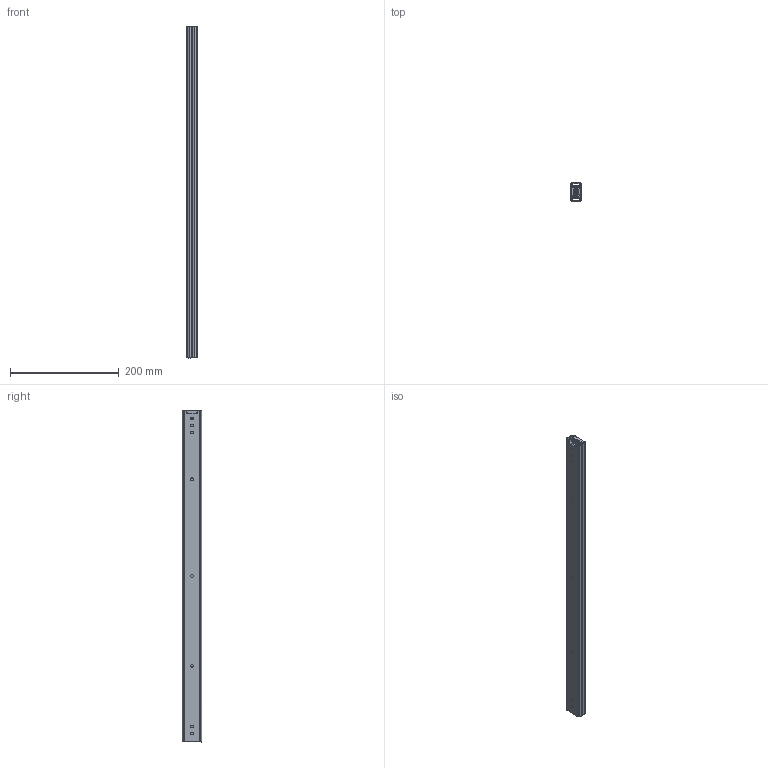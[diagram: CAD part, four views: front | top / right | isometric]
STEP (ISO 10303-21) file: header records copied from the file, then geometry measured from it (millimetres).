
FILE_DESCRIPTION (( 'STEP AP214' ), '1' );
FILE_NAME ('3560-600-closed.STEP', '2024-08-20T05:32:57', ( '' ), ( '' ), 'SwSTEP 2.0', 'SolidWorks 2024', '' );
FILE_SCHEMA (( 'AUTOMOTIVE_DESIGN' ));
Length unit declared in the file: millimetre
Products named in the file (4): 26065P3-24''''.stp_Part26; 3560-600-closed; CAD_3560-600_TelescopicRailLight_Rollco.stp_Assem13; 26065P1-24''''.stp_Part25
Assembly tree (5 placements, depth 3):
  3560-600-closed
    CAD_3560-600_TelescopicRailLight_Rollco.stp_Assem13
      26065P1-24''''.stp_Part25  x2
      26065P3-24''''.stp_Part26  x2
Bounding box: 19.6 x 35.28 x 609.6 mm (x, y, z)
Surface area: 200881.3 mm2 (no closed solid volume)
Topology: 0 solids, 4 shells, 306 faces, 882 edges, 584 vertices
Faces by surface type: cylinder 162, plane 144
Entity records: 6501 total; most frequent: CARTESIAN_POINT 3189, ORIENTED_EDGE 882, EDGE_CURVE 441, B_SPLINE_CURVE_WITH_KNOTS 428, DIRECTION 337, VERTEX_POINT 292, EDGE_LOOP 177, AXIS2_PLACEMENT_3D 162
